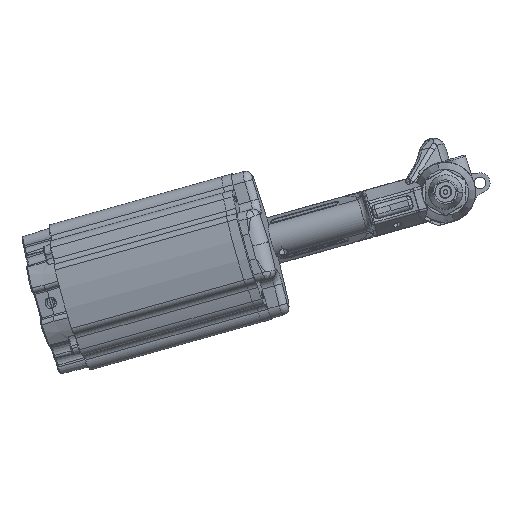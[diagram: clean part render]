
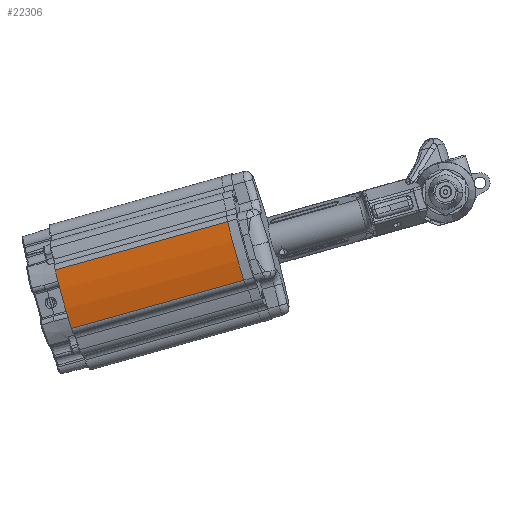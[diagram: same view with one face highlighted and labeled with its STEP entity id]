
A CAD part, top view. The second image highlights one B-rep face of the part: STEP entity #22306.
In plain terms, the highlighted cylindrical face has radius 121.5 mm (diameter 243 mm), a partial arc.
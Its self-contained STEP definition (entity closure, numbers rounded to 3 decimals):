
#1737 = AXIS2_PLACEMENT_3D ( 'NONE', #19929, #4144, #22580 ) ;
#3049 = ORIENTED_EDGE ( 'NONE', *, *, #9587, .F. ) ;
#4144 = DIRECTION ( 'NONE',  ( 0.948, 0.265, 0.174 ) ) ;
#4775 = DIRECTION ( 'NONE',  ( -0.948, -0.265, -0.174 ) ) ;
#5335 = CARTESIAN_POINT ( 'NONE',  ( -275.835, -57.438, 50.057 ) ) ;
#6048 = CIRCLE ( 'NONE', #1737, 121.5 ) ;
#6610 = ORIENTED_EDGE ( 'NONE', *, *, #11560, .T. ) ;
#6839 = VERTEX_POINT ( 'NONE', #18202 ) ;
#7688 = EDGE_CURVE ( 'NONE', #11818, #6839, #6048, .T. ) ;
#8138 = CARTESIAN_POINT ( 'NONE',  ( -143.939, -64.718, 72.111 ) ) ;
#8365 = DIRECTION ( 'NONE',  ( -0.948, -0.265, -0.174 ) ) ;
#9587 = EDGE_CURVE ( 'NONE', #23431, #20652, #21250, .T. ) ;
#10484 = DIRECTION ( 'NONE',  ( 0.948, 0.265, 0.174 ) ) ;
#10783 = DIRECTION ( 'NONE',  ( -0.948, -0.265, -0.174 ) ) ;
#10906 = CARTESIAN_POINT ( 'NONE',  ( -129.652, -38.657, -45.698 ) ) ;
#11560 = EDGE_CURVE ( 'NONE', #23431, #11818, #14062, .T. ) ;
#11818 = VERTEX_POINT ( 'NONE', #5335 ) ;
#12086 = CARTESIAN_POINT ( 'NONE',  ( -143.939, -64.718, 72.111 ) ) ;
#13010 = AXIS2_PLACEMENT_3D ( 'NONE', #26281, #10484, #28922 ) ;
#13554 = AXIS2_PLACEMENT_3D ( 'NONE', #10906, #8365, #31949 ) ;
#14062 = LINE ( 'NONE', #20559, #33402 ) ;
#14171 = CARTESIAN_POINT ( 'NONE',  ( -155.379, -23.778, 72.111 ) ) ;
#18202 = CARTESIAN_POINT ( 'NONE',  ( -264.395, -98.379, 50.057 ) ) ;
#19814 = ORIENTED_EDGE ( 'NONE', *, *, #7688, .T. ) ;
#19929 = CARTESIAN_POINT ( 'NONE',  ( -250.108, -72.318, -67.752 ) ) ;
#20559 = CARTESIAN_POINT ( 'NONE',  ( -155.379, -23.778, 72.111 ) ) ;
#20633 = FACE_OUTER_BOUND ( 'NONE', #27990, .T. ) ;
#20652 = VERTEX_POINT ( 'NONE', #12086 ) ;
#21250 = CIRCLE ( 'NONE', #13010, 121.5 ) ;
#21951 = ORIENTED_EDGE ( 'NONE', *, *, #28195, .F. ) ;
#22306 = ADVANCED_FACE ( 'NONE', ( #20633 ), #33797, .T. ) ;
#22580 = DIRECTION ( 'NONE',  ( 0.269, -0.963, 0. ) ) ;
#23431 = VERTEX_POINT ( 'NONE', #14171 ) ;
#25368 = VECTOR ( 'NONE', #10783, 1000. ) ;
#26281 = CARTESIAN_POINT ( 'NONE',  ( -129.652, -38.657, -45.698 ) ) ;
#27005 = LINE ( 'NONE', #8138, #25368 ) ;
#27990 = EDGE_LOOP ( 'NONE', ( #19814, #21951, #3049, #6610 ) ) ;
#28195 = EDGE_CURVE ( 'NONE', #20652, #6839, #27005, .T. ) ;
#28922 = DIRECTION ( 'NONE',  ( 0.269, -0.963, 0. ) ) ;
#31949 = DIRECTION ( 'NONE',  ( -0.269, 0.963, 0. ) ) ;
#33402 = VECTOR ( 'NONE', #4775, 1000. ) ;
#33797 = CYLINDRICAL_SURFACE ( 'NONE', #13554, 121.5 ) ;
